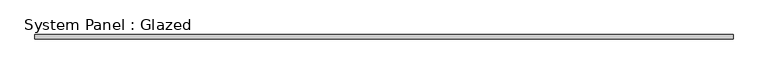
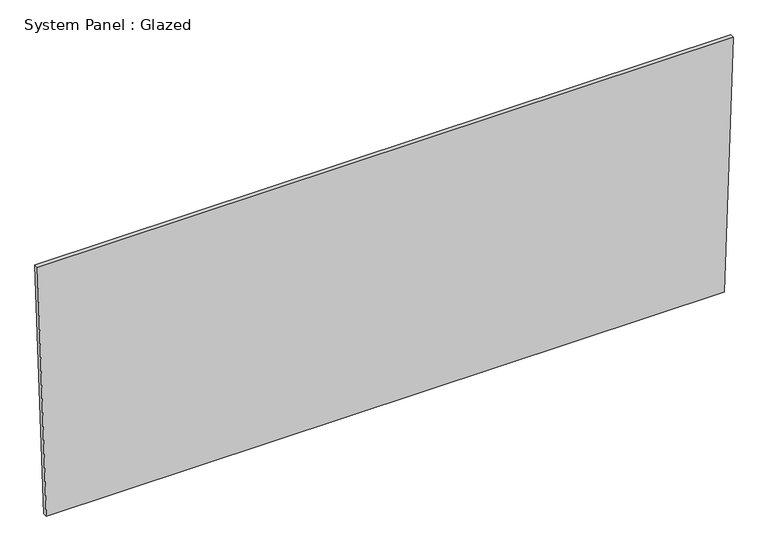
"""IFC4 building model written with IfcOpenShell, lengths in millimetres: plate geometry, System Panel : Glazed."""

import ifcopenshell
import ifcopenshell.guid

model = None  # the IFC model being written
_history = None  # IfcOwnerHistory: only IFC2X3 demands one
_inside = {}  # id of a spatial element -> (the spatial element, [elements in it])
_under = {}  # id of a project, library or spatial element -> (it, [spatial elements below it])
_declared = {}  # id of a project -> (the project, [libraries it declares])
_typed = {}  # id of a type object -> (the type object, [elements of that type])
_made_of = {}  # id of a material, layer set ... -> (it, [elements and type objects made of it])


def new_model(schema):
    """Start an empty IFC model of exactly this schema.

    Asked for "IFC4X3", IfcOpenShell would pick the latest addendum, in which some entities
    have other attributes; the version numbers below select the first issue.
    IFC2X3 requires an IfcOwnerHistory on every rooted entity: one is made here for all.
    """
    global model, _history
    if schema == "IFC4X3":
        model = ifcopenshell.file(schema_version=(4, 3, 0, 0))
    else:
        model = ifcopenshell.file(schema=schema)
    _inside.clear()
    _under.clear()
    _declared.clear()
    _typed.clear()
    _made_of.clear()
    _history = None
    if model.schema == "IFC2X3":
        org = make("IfcOrganization", Name="unknown")
        user = make(
            "IfcPersonAndOrganization",
            ThePerson=make("IfcPerson", FamilyName="unknown"),
            TheOrganization=org,
        )
        app = make(
            "IfcApplication",
            ApplicationDeveloper=org,
            Version="unknown",
            ApplicationFullName="unknown",
            ApplicationIdentifier="unknown",
        )
        _history = make(
            "IfcOwnerHistory",
            OwningUser=user,
            OwningApplication=app,
            ChangeAction="ADDED",
            CreationDate=0,
        )
    return model


def make(cls, **values):
    """One entity of the class cls with the attributes given. An attribute that is None is left unset."""
    return model.create_entity(
        cls, **{name: value for name, value in values.items() if value is not None}
    )


def rooted(cls, **values):
    """An entity with a GlobalId (a new one), such as an element, a storey or a relation."""
    return make(cls, GlobalId=ifcopenshell.guid.new(), OwnerHistory=_history, **values)


def si_unit(unit_type, name, prefix=None):
    """IfcSIUnit, for example si_unit("LENGTHUNIT", "METRE", prefix="MILLI")."""
    return make("IfcSIUnit", UnitType=unit_type, Prefix=prefix, Name=name)


def assignment(units):
    """IfcUnitAssignment: the units of a project."""
    return None if units is None else make("IfcUnitAssignment", Units=units)


def point(xyz):
    """IfcCartesianPoint."""
    return None if xyz is None else make("IfcCartesianPoint", Coordinates=xyz)


def direction(xyz):
    """IfcDirection."""
    return None if xyz is None else make("IfcDirection", DirectionRatios=xyz)


def frame(location, z_axis=None, x_axis=None):
    """IfcAxis2Placement3D, a coordinate frame: its origin and axes. An axis left out is left unset."""
    return make(
        "IfcAxis2Placement3D",
        Location=point(location),
        Axis=direction(z_axis),
        RefDirection=direction(x_axis),
    )


def origin():
    """The frame at (0, 0, 0) with its axes left unset."""
    return frame((0.0, 0.0, 0.0))


def place(relative_to, where):
    """IfcLocalPlacement: puts the frame where relative to a parent placement (None: the world)."""
    return make(
        "IfcLocalPlacement", PlacementRelTo=relative_to, RelativePlacement=where
    )


def context(
    kind, dimensions, precision=None, world=None, true_north=None, identifier=None
):
    """IfcGeometricRepresentationContext, for example the 3D "Model" context."""
    return make(
        "IfcGeometricRepresentationContext",
        ContextIdentifier=identifier,
        ContextType=kind,
        CoordinateSpaceDimension=dimensions,
        Precision=precision,
        WorldCoordinateSystem=world,
        TrueNorth=true_north,
    )


def project(units=None, contexts=None):
    """IfcProject with its units and contexts."""
    return rooted(
        "IfcProject",
        Name="project",
        RepresentationContexts=contexts,
        UnitsInContext=assignment(units),
    )


def spatial(cls, under=None, at=None, **own):
    """A site, building, storey or space (cls), placed at a placement, below another one or the project."""
    s = rooted(cls, ObjectPlacement=at, **own)
    if under is not None:
        _under.setdefault(under.id(), (under, []))[1].append(s)
    return s


def polyline(points):
    """IfcPolyline through the points."""
    return make("IfcPolyline", Points=[point(p) for p in points])


def outline(outer, holes=None, kind="AREA"):
    """IfcArbitraryClosedProfileDef: a profile drawn as a closed curve; with holes, ...WithVoids."""
    if holes is None:
        return make("IfcArbitraryClosedProfileDef", ProfileType=kind, OuterCurve=outer)
    return make(
        "IfcArbitraryProfileDefWithVoids",
        ProfileType=kind,
        OuterCurve=outer,
        InnerCurves=holes,
    )


def extrude(swept, where, along, depth):
    """IfcExtrudedAreaSolid: the profile swept, set in the frame where, extruded along a direction by depth."""
    return make(
        "IfcExtrudedAreaSolid",
        SweptArea=swept,
        Position=where,
        ExtrudedDirection=direction(along),
        Depth=depth,
    )


def shape(context_of_items, identifier, shape_type, items):
    """IfcShapeRepresentation: the items that make up one representation, for example the "Body"."""
    return make(
        "IfcShapeRepresentation",
        ContextOfItems=context_of_items,
        RepresentationIdentifier=identifier,
        RepresentationType=shape_type,
        Items=items,
    )


def source(mapping_origin, context_of_items, identifier, shape_type, items):
    """IfcRepresentationMap: a shape defined once, which mapped items show again and again."""
    return make(
        "IfcRepresentationMap",
        MappingOrigin=mapping_origin,
        MappedRepresentation=shape(context_of_items, identifier, shape_type, items),
    )


def transform(
    local_origin,
    x_axis=None,
    y_axis=None,
    z_axis=None,
    scale=None,
    scale2=None,
    scale3=None,
    uniform=True,
):
    """IfcCartesianTransformationOperator3D, or its non-uniform kind. x_axis, y_axis, z_axis: its Axis1, 2, 3."""
    if uniform:
        return make(
            "IfcCartesianTransformationOperator3D",
            Axis1=direction(x_axis),
            Axis2=direction(y_axis),
            LocalOrigin=point(local_origin),
            Scale=scale,
            Axis3=direction(z_axis),
        )
    return make(
        "IfcCartesianTransformationOperator3DnonUniform",
        Axis1=direction(x_axis),
        Axis2=direction(y_axis),
        LocalOrigin=point(local_origin),
        Scale=scale,
        Axis3=direction(z_axis),
        Scale2=scale2,
        Scale3=scale3,
    )


def mapped(mapping_source, mapping_target):
    """IfcMappedItem: shows the shape of a source again, moved by a transform."""
    return make(
        "IfcMappedItem", MappingSource=mapping_source, MappingTarget=mapping_target
    )


def made_of(thing, what):
    """Note that an element or type object is made of a material, layer set ...; save() writes the relation."""
    if what is not None:
        _made_of.setdefault(what.id(), (what, []))[1].append(thing)
    return thing


def element(
    cls,
    number,
    at=None,
    inside=None,
    cuts=None,
    type_object=None,
    material=None,
    context=None,
    identifier="Body",
    shape_type=None,
    held_by="IfcProductDefinitionShape",
    body=None,
    shapes=None,
    **own,
):
    """One element of the class cls, such as IfcWall. Its Tag is "e" and its number.

    at: its placement. inside: the storey or other place that contains it. cuts: it is an
    opening in that element (IfcRelVoidsElement). A single representation is given by context,
    identifier, shape_type and body (its items); several are given by shapes. held_by: the class
    of the entity that holds the representations. save() writes the other relations.
    """
    e = rooted(cls, Tag="e%d" % number, ObjectPlacement=at, **own)
    if body is not None:
        shapes = [shape(context, identifier, shape_type, body)]
    if shapes is not None:
        e.Representation = make(held_by, Representations=shapes)
    if inside is not None:
        _inside.setdefault(inside.id(), (inside, []))[1].append(e)
    if cuts is not None:
        rooted(
            "IfcRelVoidsElement", RelatingBuildingElement=cuts, RelatedOpeningElement=e
        )
    if type_object is not None:
        _typed.setdefault(type_object.id(), (type_object, []))[1].append(e)
    return made_of(e, material)


def aggregate(whole, parts):
    """IfcRelAggregates: a whole, such as a stair, and the parts it consists of."""
    return rooted("IfcRelAggregates", RelatingObject=whole, RelatedObjects=parts)


def save(model, path):
    """Write the relations noted so far, then the file.

    IfcRelAggregates (storeys below a building ...), IfcRelContainedInSpatialStructure (elements
    in a storey), IfcRelDefinesByType, IfcRelAssociatesMaterial and IfcRelDeclares: one each for
    every whole, place, type object, material and project.
    """
    for whole, parts in _under.values():
        aggregate(whole, parts)
    for where, things in _inside.values():
        rooted(
            "IfcRelContainedInSpatialStructure",
            RelatedElements=things,
            RelatingStructure=where,
        )
    for kind, things in _typed.values():
        rooted("IfcRelDefinesByType", RelatedObjects=things, RelatingType=kind)
    for what, things in _made_of.values():
        rooted("IfcRelAssociatesMaterial", RelatedObjects=things, RelatingMaterial=what)
    for by, libraries in _declared.values():
        rooted("IfcRelDeclares", RelatingContext=by, RelatedDefinitions=libraries)
    model.write(path)


def system_panel_glazed_7eec9ae9(model_context):
    return source(origin(), model_context, "Body", "SweptSolid", [
        extrude(outline(polyline([(0.0, -1940.3878862), (0.0, 1940.3878862), (1523.1689838, 1990.7093222), (1523.1689838, -1990.7093222), (0.0, -1940.3878862)])), frame((0.0, 19.05, 0.0), z_axis=(0.0, 1.0, 0.0), x_axis=(0.0, 0.0, 1.0)), (0.0, 0.0, 1.0), 25.4),
    ])


if __name__ == "__main__":
    model = new_model("IFC4")
    model_context = context("Model", 3, world=origin())
    ifc_project = project(units=[si_unit("LENGTHUNIT", "METRE", prefix="MILLI")], contexts=[model_context])
    site = spatial("IfcSite", under=ifc_project)
    building = spatial("IfcBuilding", under=site)
    placement = place(None, origin())
    system_panel_glazed_shape = system_panel_glazed_7eec9ae9(model_context)
    element("IfcPlate", 1, ObjectType="System Panel : Glazed", at=placement, inside=building, context=model_context, shape_type="MappedRepresentation", body=[
        mapped(system_panel_glazed_shape, transform((0.0, 0.0, 0.0), x_axis=(1.0, 0.0, 0.0), y_axis=(0.0, 1.0, 0.0), z_axis=(0.0, 0.0, 1.0))),
    ])
    save(model, "model.ifc")
